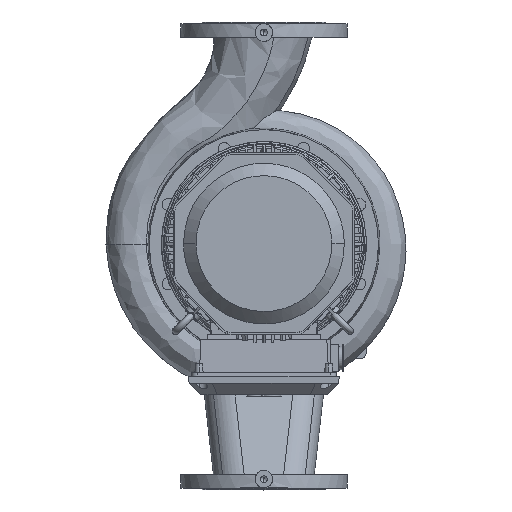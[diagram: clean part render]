
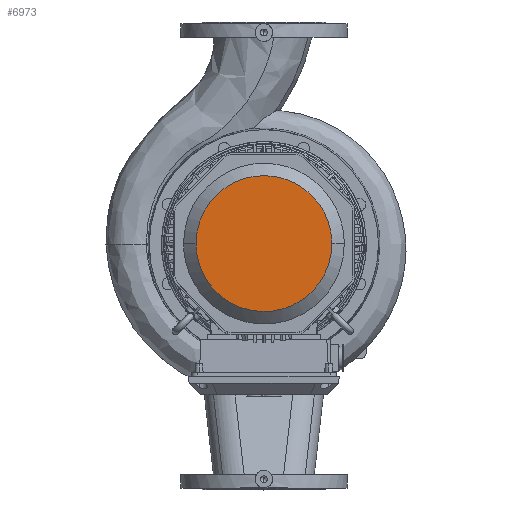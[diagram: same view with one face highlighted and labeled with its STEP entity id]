
A CAD part, top view. The second image highlights one B-rep face of the part: STEP entity #6973.
In plain terms, the highlighted free-form (B-spline) face has degree [1, 1] with [2, 2] control points.
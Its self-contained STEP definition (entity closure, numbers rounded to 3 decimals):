
#6973=ADVANCED_FACE('      F3',(#17014),#17015,.T.);
#7055=EDGE_CURVE('     E20',#17140,#17141,#17142,.T.);
#7059=EDGE_CURVE('     E20',#17141,#17140,#17146,.T.);
#17014=FACE_OUTER_BOUND('',#34411,.T.);
#17015=B_SPLINE_SURFACE_WITH_KNOTS('',1,1,((#34412,#34413),(#34414,#34415)),.UNSPECIFIED.,.F.,.F.,.F.,(2,2),(2,2),(0.044,0.955),(0.039,0.96),.UNSPECIFIED.);
#17140=VERTEX_POINT('',#34856);
#17141=VERTEX_POINT('',#34857);
#17142=(B_SPLINE_CURVE(2,(#34859,#34860,#34861,#34862,#34863),.UNSPECIFIED.,.F.,.F.)B_SPLINE_CURVE_WITH_KNOTS((3,2,3),(56.637,75.516,113.274),.UNSPECIFIED.)RATIONAL_B_SPLINE_CURVE((0.75,0.75,1.0,0.5,1.0))BOUNDED_CURVE()REPRESENTATION_ITEM('')GEOMETRIC_REPRESENTATION_ITEM()CURVE());
#17146=(B_SPLINE_CURVE(2,(#34877,#34878,#34879,#34880,#34881),.UNSPECIFIED.,.F.,.F.)B_SPLINE_CURVE_WITH_KNOTS((3,2,3),(0.0,37.758,56.637),.UNSPECIFIED.)RATIONAL_B_SPLINE_CURVE((1.0,0.5,1.0,0.75,0.75))BOUNDED_CURVE()REPRESENTATION_ITEM('')GEOMETRIC_REPRESENTATION_ITEM()CURVE());
#34411=EDGE_LOOP('',(#70217,#70218));
#34412=CARTESIAN_POINT('',(116.548,-116.667,-389.037));
#34413=CARTESIAN_POINT('',(116.548,116.396,-389.037));
#34414=CARTESIAN_POINT('',(-116.165,-116.667,-389.037));
#34415=CARTESIAN_POINT('',(-116.165,116.396,-389.037));
#34856=CARTESIAN_POINT('',(116.157,0.,-389.037));
#34857=CARTESIAN_POINT('',(-116.157,0.,-389.037));
#34859=CARTESIAN_POINT('',(116.157,0.,-389.037));
#34860=CARTESIAN_POINT('',(116.157,67.063,-389.037));
#34861=CARTESIAN_POINT('',(58.078,100.595,-389.037));
#34862=CARTESIAN_POINT('',(-116.157,201.189,-389.037));
#34863=CARTESIAN_POINT('',(-116.157,0.,-389.037));
#34877=CARTESIAN_POINT('',(-116.157,0.,-389.037));
#34878=CARTESIAN_POINT('',(-116.157,-201.189,-389.037));
#34879=CARTESIAN_POINT('',(58.078,-100.595,-389.037));
#34880=CARTESIAN_POINT('',(116.157,-67.063,-389.037));
#34881=CARTESIAN_POINT('',(116.157,0.,-389.037));
#70217=ORIENTED_EDGE('',*,*,#7059,.F.);
#70218=ORIENTED_EDGE('',*,*,#7055,.F.);
